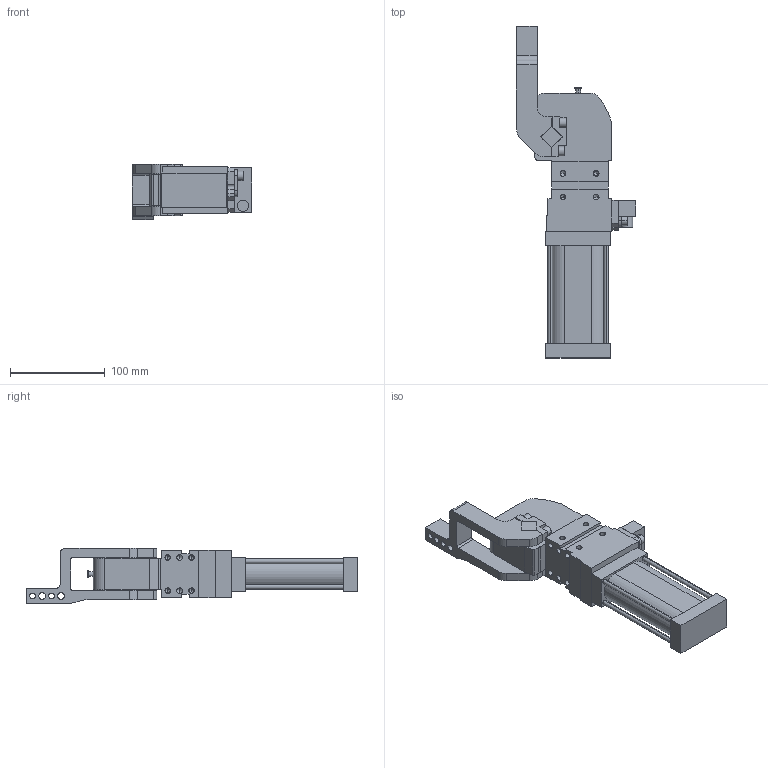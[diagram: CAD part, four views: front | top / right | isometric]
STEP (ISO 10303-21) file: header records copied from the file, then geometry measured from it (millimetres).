
FILE_DESCRIPTION (( 'STEP AP214' ), '1' );
FILE_NAME ('cpl40h1di1g_122.STEP', '2021-05-19T10:27:27', ( '' ), ( '' ), 'SwSTEP 2.0', 'SolidWorks 2021', '' );
FILE_SCHEMA (( 'AUTOMOTIVE_DESIGN' ));
Length unit declared in the file: millimetre
Products named in the file (5): cpl40h1di1g_122; meccanica_cpl40; leva_v1s_cpl40; blocchetto_VEP_0_cpl40; piastra_blocchetto_cpl40
Assembly tree (4 placements, depth 2):
  cpl40h1di1g_122
    meccanica_cpl40
    blocchetto_VEP_0_cpl40
    piastra_blocchetto_cpl40
    leva_v1s_cpl40
Bounding box: 125.5 x 350 x 58 mm (x, y, z)
Volume: 773836 mm3; surface area: 118009.1 mm2
Topology: 5 solids, 5 shells, 413 faces, 1055 edges, 659 vertices
Faces by surface type: plane 218, cylinder 147, cone 48
Entity records: 13750 total; most frequent: DIRECTION 2173, CARTESIAN_POINT 2088, ORIENTED_EDGE 2018, EDGE_CURVE 1009, AXIS2_PLACEMENT_3D 744, LINE 685, VECTOR 685, VERTEX_POINT 659
